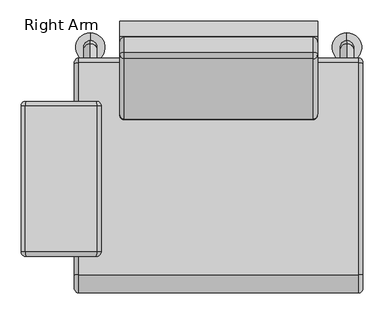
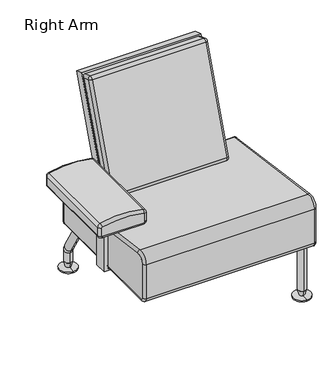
"""IFC4 building model written with IfcOpenShell, lengths in millimetres: furniture geometry, Steelcase Coalesse - Sidewalk - Seating - Collaborative Chair : Right Arm."""

from ifc_helpers import new_model, si_unit, point, frame, origin, place, context, project, spatial, polyline, circle_curve, ellipse_curve, trimmed, outline, extrude, source, transform, mapped, element, save
from ifc_brep_helpers import plane_surface, cylinder_surface, revolved_surface, advanced_brep


def right_arm_d1dfa9dd(model_context):
    return source(origin(), model_context, "Body", "SolidModel", [
        advanced_brep(
        [(122.9089794, 412.7742549, 335.1190448), (122.9089794, 414.1472627, 333.546102), (122.9089794, 414.1472627, 228.6), (122.9089794, 412.5597627, 227.0125), (122.9089794, -114.4902373, 227.0125), (122.9089794, -122.4277373, 234.95), (122.9089794, -122.4277373, 377.1837519), (122.9089794, -91.7938701, 403.9237811), (808.7089794, -91.7938701, 403.9237811), (808.7089794, -122.4277373, 377.1837519), (808.7089794, -122.4277373, 234.95), (808.7089794, -114.4902373, 227.0125), (808.7089794, 412.5597627, 227.0125), (808.7089794, 414.1472627, 228.6), (808.7089794, 414.1472627, 333.546102), (808.7089794, 412.7742549, 335.1190448), (797.5964794, -90.2924248, 414.9343814), (797.5964794, 414.2757002, 346.1296451), (134.0214794, 414.2757002, 346.1296451), (134.0214794, -90.2924248, 414.9343814), (797.5964794, 425.2597627, 333.546102), (134.0214794, 425.2597627, 333.546102), (797.5964794, 425.2597627, 228.6), (134.0214794, 425.2597627, 228.6), (797.5964794, 412.5597627, 215.9), (134.0214794, 412.5597627, 215.9), (797.5964794, -114.4902373, 215.9), (134.0214794, -114.4902373, 215.9), (797.5964794, -133.5402373, 234.95), (134.0214726, -133.5402373, 234.95), (797.5964794, -133.5402373, 377.1837519), (134.0214794, -133.5402373, 377.1837519)],
        [
            (0, 1, circle_curve(frame((122.9089794, 412.5597627, 333.546102), z_axis=(-1.0, 0.0, 0.0), x_axis=(0.0, 0.13511318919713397, 0.9908301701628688)), 1.5875)),
            (1, 2),
            (2, 3, circle_curve(frame((122.9089794, 412.5597627, 228.6), z_axis=(-1.0, 0.0, 0.0), x_axis=(0.0, 1.0, 0.0)), 1.5875)),
            (3, 4),
            (4, 5, circle_curve(frame((122.9089794, -114.4902373, 234.95), z_axis=(-1.0, 0.0, 0.0), x_axis=(0.0, 0.0, -1.0)), 7.9375)),
            (5, 6),
            (6, 7, circle_curve(frame((122.9089794, -95.4402373, 377.1837519), z_axis=(-1.0, 0.0, 0.0), x_axis=(0.0, -1.0, 0.0)), 26.9875)),
            (7, 0),
            (8, 9, circle_curve(frame((808.7089794, -95.4402373, 377.1837519), z_axis=(1.0, 0.0, 0.0), x_axis=(0.0, 0.13511318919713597, 0.9908301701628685)), 26.9875)),
            (9, 10),
            (10, 11, circle_curve(frame((808.7089794, -114.4902373, 234.95), z_axis=(1.0, 0.0, 0.0), x_axis=(0.0, -1.0, 0.0)), 7.9375)),
            (11, 12),
            (12, 13, circle_curve(frame((808.7089794, 412.5597627, 228.6), z_axis=(1.0, 0.0, 0.0), x_axis=(0.0, 0.0, -1.0)), 1.5875)),
            (13, 14),
            (14, 15, circle_curve(frame((808.7089794, 412.5597627, 333.546102), z_axis=(1.0, 0.0, 0.0), x_axis=(0.0, 1.0, 0.0)), 1.5875)),
            (15, 8),
            (16, 17),
            (17, 18),
            (18, 19),
            (19, 16),
            (17, 20, circle_curve(frame((797.5964794, 412.5597627, 333.546102), z_axis=(-1.0, 0.0, 0.0), x_axis=(0.0, -1.0, 0.0)), 12.7)),
            (20, 21),
            (21, 18, circle_curve(frame((134.0214794, 412.5597627, 333.546102), z_axis=(1.0, 0.0, 0.0), x_axis=(0.0, -1.0, 0.0)), 12.7)),
            (20, 22),
            (22, 23),
            (23, 21),
            (22, 24, circle_curve(frame((797.5964794, 412.5597627, 228.6), z_axis=(-1.0, 0.0, 0.0), x_axis=(0.0, -1.0, 0.0)), 12.7)),
            (24, 25),
            (25, 23, circle_curve(frame((134.0214794, 412.5597627, 228.6), z_axis=(1.0, 0.0, 0.0), x_axis=(0.0, -1.0, 0.0)), 12.7)),
            (24, 26),
            (26, 27),
            (27, 25),
            (26, 28, circle_curve(frame((797.5964794, -114.4902373, 234.95), z_axis=(-1.0, 0.0, 0.0), x_axis=(0.0, -1.0, 0.0)), 19.05)),
            (28, 29),
            (29, 27, circle_curve(frame((134.0214794, -114.4902373, 234.95), z_axis=(1.0, 0.0, 0.0), x_axis=(0.0, -1.0, 0.0)), 19.05)),
            (28, 30),
            (30, 31),
            (31, 29),
            (30, 16, circle_curve(frame((797.5964794, -95.4402373, 377.1837519), z_axis=(-1.0, 0.0, 0.0), x_axis=(0.0, -1.0, 0.0)), 38.1)),
            (19, 31, circle_curve(frame((134.0214794, -95.4402373, 377.1837519), z_axis=(1.0, 0.0, 0.0), x_axis=(0.0, -1.0, 0.0)), 38.1)),
            (30, 9, circle_curve(frame((797.5964794, -122.4277373, 377.1837519), z_axis=(0.0, 0.0, 0.9999999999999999), x_axis=(0.0, -0.9999999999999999, 0.0)), 11.1125)),
            (8, 16, circle_curve(frame((797.5964794, -91.7938701, 403.9237811), z_axis=(0.0, -0.9908301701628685, 0.13511318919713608), x_axis=(0.0, 0.13511318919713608, 0.9908301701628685)), 11.1125)),
            (28, 10, circle_curve(frame((797.5964794, -122.4277373, 234.95), z_axis=(0.0, 0.0, 1.0), x_axis=(0.0, -1.0, 0.0)), 11.1125)),
            (26, 11, circle_curve(frame((797.5964794, -114.4902373, 227.0125), z_axis=(0.0, -1.0, 0.0), x_axis=(0.0, 0.0, -1.0)), 11.1125)),
            (24, 12, circle_curve(frame((797.5964794, 412.5597627, 227.0125), z_axis=(0.0, -1.0, 0.0), x_axis=(0.0, 0.0, -1.0)), 11.1125)),
            (22, 13, circle_curve(frame((797.5964794, 414.1472627, 228.6), z_axis=(0.0, 0.0, -1.0), x_axis=(0.0, 1.0, 0.0)), 11.1125)),
            (20, 14, circle_curve(frame((797.5964794, 414.1472627, 333.546102), z_axis=(0.0, 0.0, -1.0), x_axis=(0.0, 1.0, 0.0)), 11.1125)),
            (17, 15, circle_curve(frame((797.5964794, 412.7742549, 335.1190448), z_axis=(0.0, 0.9908301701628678, -0.1351131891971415), x_axis=(0.0, 0.1351131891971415, 0.9908301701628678)), 11.1125)),
            (21, 1, circle_curve(frame((134.0214794, 414.1472627, 333.546102), z_axis=(0.0, 0.0, 1.0), x_axis=(0.0, -1.0, 0.0)), 11.1125)),
            (0, 18, circle_curve(frame((134.0214794, 412.7742549, 335.1190448), z_axis=(0.0, 0.9908301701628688, -0.13511318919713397), x_axis=(0.0, -0.13511318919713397, -0.9908301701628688)), 11.1125)),
            (23, 2, circle_curve(frame((134.0214794, 414.1472627, 228.6), z_axis=(0.0, 0.0, 1.0), x_axis=(0.0, -1.0, 0.0)), 11.1125)),
            (25, 3, circle_curve(frame((134.0214794, 412.5597627, 227.0125), z_axis=(0.0, 1.0, 0.0), x_axis=(0.0, 0.0, 1.0)), 11.1125)),
            (27, 4, circle_curve(frame((134.0214794, -114.4902373, 227.0125), z_axis=(0.0, 1.0, 0.0), x_axis=(0.0, 0.0, 1.0)), 11.1125)),
            (29, 5, circle_curve(frame((134.0214794, -122.4277373, 234.95), z_axis=(0.0, 0.0, -1.0), x_axis=(0.0, 1.0, 0.0)), 11.1125)),
            (31, 6, circle_curve(frame((134.0214794, -122.4277373, 377.1837519), z_axis=(0.0, 0.0, -1.0), x_axis=(0.0, 1.0, 0.0)), 11.1125)),
            (19, 7, circle_curve(frame((134.0214794, -91.7938701, 403.9237811), z_axis=(0.0, -0.9908301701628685, 0.1351131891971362), x_axis=(0.0, -0.1351131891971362, -0.9908301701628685)), 11.1125)),
        ],
        [
            plane_surface(frame((122.9089794, 564.9597627, 325.5818208), z_axis=(-1.0000000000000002, 0.0, 0.0), x_axis=(0.0, 0.9908301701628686, -0.1351131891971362))),
            plane_surface(frame((808.7089794, 564.9597627, 325.5818208), z_axis=(1.0000000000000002, 0.0, 0.0), x_axis=(0.0, -0.9908301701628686, 0.1351131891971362))),
            plane_surface(frame((122.9089794, -90.2924248, 414.9343814), z_axis=(0.0, 0.1351131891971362, 0.9908301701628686), x_axis=(1.0, 0.0, 0.0))),
            cylinder_surface(frame((808.7089794, 412.5597627, 333.546102), z_axis=(-1.0, 0.0, 0.0), x_axis=(0.0, -1.0, 0.0)), 12.7),
            plane_surface(frame((122.9089794, 425.2597627, 333.546102), z_axis=(0.0, 1.0, 0.0), x_axis=(1.0, 0.0, 0.0))),
            cylinder_surface(frame((808.7089794, 412.5597627, 228.6), z_axis=(-1.0, 0.0, 0.0), x_axis=(0.0, -1.0, 0.0)), 12.7),
            plane_surface(frame((122.9089794, 412.5597627, 215.9), z_axis=(0.0, 0.0, -1.0), x_axis=(1.0, 0.0, 0.0))),
            cylinder_surface(frame((808.7089794, -114.4902373, 234.95), z_axis=(-1.0, 0.0, 0.0), x_axis=(0.0, -1.0, 0.0)), 19.05),
            plane_surface(frame((122.9089794, -133.5402373, 234.95), z_axis=(0.0, -1.0, 0.0), x_axis=(1.0, 0.0, 0.0))),
            cylinder_surface(frame((808.7089794, -95.4402373, 377.1837519), z_axis=(-1.0, 0.0, 0.0), x_axis=(0.0, -1.0, 0.0)), 38.1),
            revolved_surface(trimmed(ellipse_curve(frame((797.5964794, -91.7938701, 403.9237811), z_axis=(0.0, 0.9908301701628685, -0.13511318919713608), x_axis=(0.0, 0.13511318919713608, 0.9908301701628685)), 11.1125, 11.1125), [point((797.5964794, -90.2924248, 414.9343814))], [point((808.7089794, -91.7938701, 403.9237811))], True, "CARTESIAN"), (808.7089794, -95.4402373, 377.1837519), (1.0, 0.0, 0.0)),
            cylinder_surface(frame((797.5964794, -122.4277373, 377.1837519), z_axis=(0.0, 0.0, -1.0), x_axis=(0.0, -1.0, 0.0)), 11.1125),
            revolved_surface(trimmed(ellipse_curve(frame((797.5964794, -122.4277373, 234.95), z_axis=(0.0, 0.0, 1.0), x_axis=(0.0, -1.0, 0.0)), 11.1125, 11.1125), [point((797.5964794, -133.5402373, 234.95))], [point((808.7089794, -122.4277373, 234.95))], True, "CARTESIAN"), (808.7089794, -114.4902373, 234.95), (1.0, 0.0, 0.0)),
            cylinder_surface(frame((797.5964794, -114.4902373, 227.0125), z_axis=(0.0, 1.0, 0.0), x_axis=(0.0, 0.0, -1.0)), 11.1125),
            revolved_surface(trimmed(ellipse_curve(frame((797.5964794, 412.5597627, 227.0125), z_axis=(0.0, -1.0, 0.0), x_axis=(0.0, 0.0, -1.0)), 11.1125, 11.1125), [point((797.5964794, 412.5597627, 215.9))], [point((808.7089794, 412.5597627, 227.0125))], True, "CARTESIAN"), (808.7089794, 412.5597627, 228.6), (1.0, 0.0, 0.0)),
            cylinder_surface(frame((797.5964794, 414.1472627, 228.6), z_axis=(0.0, 0.0, 1.0), x_axis=(0.0, 1.0, 0.0)), 11.1125),
            revolved_surface(trimmed(ellipse_curve(frame((797.5964794, 414.1472627, 333.546102), z_axis=(0.0, 0.0, -1.0), x_axis=(0.0, 1.0, 0.0)), 11.1125, 11.1125), [point((797.5964794, 425.2597627, 333.546102))], [point((808.7089794, 414.1472627, 333.546102))], True, "CARTESIAN"), (808.7089794, 412.5597627, 333.546102), (1.0, 0.0, 0.0)),
            cylinder_surface(frame((797.5964794, 412.7742549, 335.1190448), z_axis=(0.0, -0.9908301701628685, 0.13511318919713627), x_axis=(0.0, 0.13511318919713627, 0.9908301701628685)), 11.1125),
            revolved_surface(trimmed(ellipse_curve(frame((134.0214794, 412.7742549, 335.1190448), z_axis=(0.0, -0.9908301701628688, 0.13511318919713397), x_axis=(0.0, -0.13511318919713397, -0.9908301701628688)), 11.1125, 11.1125), [point((134.0214794, 414.2757002, 346.1296451))], [point((122.9089794, 412.7742549, 335.1190448))], True, "CARTESIAN"), (122.9089794, 412.5597627, 333.546102), (-1.0, 0.0, 0.0)),
            cylinder_surface(frame((134.0214794, 414.1472627, 333.546102), z_axis=(0.0, 0.0, -1.0), x_axis=(0.0, -1.0, 0.0)), 11.1125),
            revolved_surface(trimmed(ellipse_curve(frame((134.0214794, 414.1472627, 228.6), z_axis=(0.0, 0.0, 1.0), x_axis=(0.0, -1.0, 0.0)), 11.1125, 11.1125), [point((134.0214794, 425.2597627, 228.6))], [point((122.9089794, 414.1472627, 228.6))], True, "CARTESIAN"), (122.9089794, 412.5597627, 228.6), (-1.0, 0.0, 0.0)),
            cylinder_surface(frame((134.0214794, 412.5597627, 227.0125), z_axis=(0.0, -1.0, 0.0), x_axis=(0.0, 0.0, 1.0)), 11.1125),
            revolved_surface(trimmed(ellipse_curve(frame((134.0214794, -114.4902373, 227.0125), z_axis=(0.0, 1.0, 0.0), x_axis=(0.0, 0.0, 1.0)), 11.1125, 11.1125), [point((134.0214794, -114.4902373, 215.9))], [point((122.9089794, -114.4902373, 227.0125))], True, "CARTESIAN"), (122.9089794, -114.4902373, 234.95), (-1.0, 0.0, 0.0)),
            cylinder_surface(frame((134.0214794, -122.4277373, 234.95), z_axis=(0.0, 0.0, 1.0), x_axis=(0.0, 1.0, 0.0)), 11.1125),
            revolved_surface(trimmed(ellipse_curve(frame((134.0214794, -122.4277373, 377.1837519), z_axis=(0.0, 0.0, -1.0), x_axis=(0.0, 1.0, 0.0)), 11.1125, 11.1125), [point((134.0214794, -133.5402373, 377.1837519))], [point((122.9089794, -122.4277373, 377.1837519))], True, "CARTESIAN"), (122.9089794, -95.4402373, 377.1837519), (-1.0, 0.0, 0.0)),
            cylinder_surface(frame((134.0214794, -91.7938701, 403.9237811), z_axis=(0.0, 0.9908301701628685, -0.1351131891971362), x_axis=(0.0, -0.1351131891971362, -0.9908301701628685)), 11.1125),
        ],
        [
            (0, [[1, 2, 3, 4, 5, 6, 7, 8]]),
            (1, [[9, 10, 11, 12, 13, 14, 15, 16]]),
            (2, [[17, 18, 19, 20]]),
            (3, [[21, 22, 23, -18]]),
            (4, [[24, 25, 26, -22]]),
            (5, [[27, 28, 29, -25]]),
            (6, [[30, 31, 32, -28]]),
            (7, [[33, 34, 35, -31]]),
            (8, [[36, 37, 38, -34]]),
            (9, [[39, -20, 40, -37]]),
            (10, [[41, -9, 42, -39]]),
            (11, [[-41, -36, 43, -10]]),
            (12, [[-43, -33, 44, -11]]),
            (13, [[-44, -30, 45, -12]]),
            (14, [[-45, -27, 46, -13]]),
            (15, [[-46, -24, 47, -14]]),
            (16, [[-47, -21, 48, -15]]),
            (17, [[-42, -16, -48, -17]]),
            (18, [[49, -1, 50, -23]]),
            (19, [[-49, -26, 51, -2]]),
            (20, [[-51, -29, 52, -3]]),
            (21, [[-52, -32, 53, -4]]),
            (22, [[-53, -35, 54, -5]]),
            (23, [[-54, -38, 55, -6]]),
            (24, [[-55, -40, 56, -7]]),
            (25, [[-50, -8, -56, -19]]),
        ],
    ),
        advanced_brep(
        [(8.8567727, -46.3480901, 525.1102695), (7.6454268, -46.3480901, 523.5679776), (7.6454268, -46.3480901, 488.95), (9.2329268, -46.3480901, 487.3625), (174.3329268, -46.3480901, 487.3625), (175.9204268, -46.3480901, 488.95), (175.9204268, -46.3480901, 523.5679776), (174.7090809, -46.3480901, 525.1102695), (174.7090809, 321.9519099, 525.1102695), (175.9204268, 321.9519099, 523.5679776), (175.9204268, 321.9519099, 488.95), (174.3329268, 321.9519099, 487.3625), (9.2329268, 321.9519099, 487.3625), (7.6454268, 321.9519099, 488.95), (7.6454268, 321.9519099, 523.5679776), (8.8567727, 321.9519099, 525.1102695), (174.3329268, 310.8394099, 476.25), (187.0329268, 310.8394099, 488.95), (187.0329268, -35.2355901, 488.95), (174.3329268, -35.2355901, 476.25), (187.0329268, 310.8394099, 523.5679776), (187.0329268, -35.2355901, 523.5679776), (177.3421596, 310.8394099, 535.9063129), (177.3421596, -35.2355901, 535.9063129), (6.2236939, 310.8394099, 535.9063129), (6.2236939, -35.2355901, 535.9063129), (-3.4670732, 310.8394099, 523.5679776), (-3.4670732, -35.2355901, 523.5679776), (-3.4670732, 310.8394099, 488.95), (-3.4670732, -35.2355901, 488.95), (9.2329268, 310.8394099, 476.25), (9.2329268, -35.2355901, 476.25)],
        [
            (0, 1, circle_curve(frame((9.2329268, -46.3480901, 523.5679776), z_axis=(0.0, -1.0, 0.0), x_axis=(-0.23694746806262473, 0.0, 0.9715224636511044)), 1.5875)),
            (1, 2),
            (2, 3, circle_curve(frame((9.2329268, -46.3480901, 488.95), z_axis=(0.0, -1.0, 0.0), x_axis=(-1.0, 0.0, 0.0)), 1.5875)),
            (3, 4),
            (4, 5, circle_curve(frame((174.3329268, -46.3480901, 488.95), z_axis=(0.0, -1.0, 0.0), x_axis=(0.0, 0.0, -1.0)), 1.5875)),
            (5, 6),
            (6, 7, circle_curve(frame((174.3329268, -46.3480901, 523.5679776), z_axis=(0.0, -1.0, 0.0), x_axis=(1.0, 0.0, 0.0)), 1.5875)),
            (7, 0, circle_curve(frame((91.7829268, -46.3480901, 185.0997929), z_axis=(0.0, -1.0, 0.0), x_axis=(0.2369474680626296, 0.0, 0.9715224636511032)), 349.9769581)),
            (8, 9, circle_curve(frame((174.3329268, 321.9519099, 523.5679776), z_axis=(0.0, 1.0, 0.0), x_axis=(0.23694746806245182, 0.0, 0.9715224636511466)), 1.5875)),
            (9, 10),
            (10, 11, circle_curve(frame((174.3329268, 321.9519099, 488.95), z_axis=(0.0, 1.0, 0.0), x_axis=(1.0, 0.0, 0.0)), 1.5875)),
            (11, 12),
            (12, 13, circle_curve(frame((9.2329268, 321.9519099, 488.95), z_axis=(0.0, 1.0, 0.0), x_axis=(0.0, 0.0, -1.0)), 1.5875)),
            (13, 14),
            (14, 15, circle_curve(frame((9.2329268, 321.9519099, 523.5679776), z_axis=(0.0, 1.0, 0.0), x_axis=(-1.0, 0.0, 0.0)), 1.5875)),
            (15, 8, circle_curve(frame((91.7829268, 321.9519099, 185.0997929), z_axis=(0.0, 1.0, 0.0), x_axis=(-0.23694746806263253, 0.0, 0.9715224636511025)), 349.9769581)),
            (16, 17, circle_curve(frame((174.3329268, 310.8394099, 488.95), z_axis=(0.0, -1.0, 0.0), x_axis=(1.0, 0.0, 0.0)), 12.7)),
            (17, 18),
            (18, 19, circle_curve(frame((174.3329268, -35.2355901, 488.95), z_axis=(0.0, 1.0, 0.0), x_axis=(1.0, 0.0, 0.0)), 12.7)),
            (19, 16),
            (17, 20),
            (20, 21),
            (21, 18),
            (20, 22, circle_curve(frame((174.3329268, 310.8394099, 523.5679776), z_axis=(0.0, -1.0, 0.0), x_axis=(1.0, 0.0, 0.0)), 12.7)),
            (22, 23),
            (23, 21, circle_curve(frame((174.3329268, -35.2355901, 523.5679776), z_axis=(0.0, 1.0, 0.0), x_axis=(1.0, 0.0, 0.0)), 12.7)),
            (22, 24, circle_curve(frame((91.7829268, 310.8394099, 185.0997929), z_axis=(0.0, -1.0, 0.0), x_axis=(1.0, 0.0, 0.0)), 361.0894581)),
            (24, 25),
            (25, 23, circle_curve(frame((91.7829268, -35.2355901, 185.0997929), z_axis=(0.0, 1.0, 0.0), x_axis=(1.0, 0.0, 0.0)), 361.0894581)),
            (24, 26, circle_curve(frame((9.2329268, 310.8394099, 523.5679776), z_axis=(0.0, -1.0, 0.0), x_axis=(1.0, 0.0, 0.0)), 12.7)),
            (26, 27),
            (27, 25, circle_curve(frame((9.2329268, -35.2355901, 523.5679776), z_axis=(0.0, 1.0, 0.0), x_axis=(1.0, 0.0, 0.0)), 12.7)),
            (26, 28),
            (28, 29),
            (29, 27),
            (28, 30, circle_curve(frame((9.2329268, 310.8394099, 488.95), z_axis=(0.0, -1.0, 0.0), x_axis=(1.0, 0.0, 0.0)), 12.7)),
            (30, 31),
            (31, 29, circle_curve(frame((9.2329268, -35.2355901, 488.95), z_axis=(0.0, 1.0, 0.0), x_axis=(1.0, 0.0, 0.0)), 12.7)),
            (30, 16),
            (19, 31),
            (20, 9, circle_curve(frame((175.9204268, 310.8394099, 523.5679776), z_axis=(0.0, 0.0, 1.0), x_axis=(1.0, 0.0, 0.0)), 11.1125)),
            (8, 22, circle_curve(frame((174.7090809, 310.8394099, 525.1102695), z_axis=(0.9715224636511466, 0.0, -0.23694746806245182), x_axis=(0.23694746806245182, 0.0, 0.9715224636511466)), 11.1125)),
            (17, 10, circle_curve(frame((175.9204268, 310.8394099, 488.95), z_axis=(0.0, 0.0, 1.0), x_axis=(1.0, 0.0, 0.0)), 11.1125)),
            (16, 11, circle_curve(frame((174.3329268, 310.8394099, 487.3625), z_axis=(1.0, 0.0, 0.0), x_axis=(0.0, 0.0, -1.0)), 11.1125)),
            (30, 12, circle_curve(frame((9.2329268, 310.8394099, 487.3625), z_axis=(1.0, 0.0, 0.0), x_axis=(0.0, 0.0, -1.0)), 11.1125)),
            (28, 13, circle_curve(frame((7.6454268, 310.8394099, 488.95), z_axis=(0.0, 0.0, -1.0), x_axis=(-1.0, 0.0, 0.0)), 11.1125)),
            (26, 14, circle_curve(frame((7.6454268, 310.8394099, 523.5679776), z_axis=(0.0, 0.0, -1.0), x_axis=(-1.0, 0.0, 0.0)), 11.1125)),
            (24, 15, circle_curve(frame((8.8567727, 310.8394099, 525.1102695), z_axis=(-0.9715224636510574, 0.0, -0.2369474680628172), x_axis=(-0.2369474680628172, 0.0, 0.9715224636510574)), 11.1125)),
            (27, 1, circle_curve(frame((7.6454268, -35.2355901, 523.5679776), z_axis=(0.0, 0.0, 1.0), x_axis=(1.0, 0.0, 0.0)), 11.1125)),
            (0, 25, circle_curve(frame((8.8567727, -35.2355901, 525.1102695), z_axis=(-0.9715224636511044, 0.0, -0.2369474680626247), x_axis=(0.2369474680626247, 0.0, -0.9715224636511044)), 11.1125)),
            (29, 2, circle_curve(frame((7.6454268, -35.2355901, 488.95), z_axis=(0.0, 0.0, 1.0), x_axis=(1.0, 0.0, 0.0)), 11.1125)),
            (31, 3, circle_curve(frame((9.2329268, -35.2355901, 487.3625), z_axis=(-1.0, 0.0, 0.0), x_axis=(0.0, 0.0, 1.0)), 11.1125)),
            (19, 4, circle_curve(frame((174.3329268, -35.2355901, 487.3625), z_axis=(-1.0, 0.0, 0.0), x_axis=(0.0, 0.0, 1.0)), 11.1125)),
            (18, 5, circle_curve(frame((175.9204268, -35.2355901, 488.95), z_axis=(0.0, 0.0, -1.0), x_axis=(-1.0, 0.0, 0.0)), 11.1125)),
            (21, 6, circle_curve(frame((175.9204268, -35.2355901, 523.5679776), z_axis=(0.0, 0.0, -1.0), x_axis=(-1.0, 0.0, 0.0)), 11.1125)),
            (23, 7, circle_curve(frame((174.7090809, -35.2355901, 525.1102695), z_axis=(0.9715224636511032, 0.0, -0.23694746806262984), x_axis=(-0.23694746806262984, 0.0, -0.9715224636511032)), 11.1125)),
        ],
        [
            plane_surface(frame((187.0329268, -46.3480901, 488.95), z_axis=(0.0, -1.0, 0.0), x_axis=(0.0, 0.0, 1.0))),
            plane_surface(frame((187.0329268, 321.9519099, 488.95), z_axis=(0.0, 1.0, 0.0), x_axis=(0.0, 0.0, -1.0))),
            cylinder_surface(frame((174.3329268, 321.9519099, 488.95), z_axis=(0.0, -1.0, 0.0), x_axis=(1.0, 0.0, 0.0)), 12.7),
            plane_surface(frame((187.0329268, -46.3480901, 488.95), z_axis=(1.0, 0.0, 0.0), x_axis=(0.0, 1.0, 0.0))),
            cylinder_surface(frame((174.3329268, 321.9519099, 523.5679776), z_axis=(0.0, -1.0, 0.0), x_axis=(1.0, 0.0, 0.0)), 12.7),
            cylinder_surface(frame((91.7829268, 321.9519099, 185.0997929), z_axis=(0.0, -1.0, 0.0), x_axis=(1.0, 0.0, 0.0)), 361.0894581),
            cylinder_surface(frame((9.2329268, 321.9519099, 523.5679776), z_axis=(0.0, -1.0, 0.0), x_axis=(1.0, 0.0, 0.0)), 12.7),
            plane_surface(frame((-3.4670732, -46.3480901, 523.5679776), z_axis=(-1.0, 0.0, 0.0), x_axis=(0.0, 1.0, 0.0))),
            cylinder_surface(frame((9.2329268, 321.9519099, 488.95), z_axis=(0.0, -1.0, 0.0), x_axis=(1.0, 0.0, 0.0)), 12.7),
            plane_surface(frame((9.2329268, -46.3480901, 476.25), z_axis=(0.0, 0.0, -1.0), x_axis=(0.0, 1.0, 0.0))),
            revolved_surface(trimmed(ellipse_curve(frame((174.7090809, 310.8394099, 525.1102695), z_axis=(-0.9715224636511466, 0.0, 0.23694746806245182), x_axis=(0.23694746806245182, 0.0, 0.9715224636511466)), 11.1125, 11.1125), [point((177.3421596, 310.8394099, 535.9063129))], [point((174.7090809, 321.9519099, 525.1102695))], True, "CARTESIAN"), (174.3329268, 321.9519099, 523.5679776), (0.0, 1.0, 0.0)),
            cylinder_surface(frame((175.9204268, 310.8394099, 523.5679776), z_axis=(0.0, 0.0, -1.0), x_axis=(1.0, 0.0, 0.0)), 11.1125),
            revolved_surface(trimmed(ellipse_curve(frame((175.9204268, 310.8394099, 488.95), z_axis=(0.0, 0.0, 1.0), x_axis=(1.0, 0.0, 0.0)), 11.1125, 11.1125), [point((187.0329268, 310.8394099, 488.95))], [point((175.9204268, 321.9519099, 488.95))], True, "CARTESIAN"), (174.3329268, 321.9519099, 488.95), (0.0, 1.0, 0.0)),
            cylinder_surface(frame((174.3329268, 310.8394099, 487.3625), z_axis=(-1.0, 0.0, 0.0), x_axis=(0.0, 0.0, -1.0)), 11.1125),
            revolved_surface(trimmed(ellipse_curve(frame((9.2329268, 310.8394099, 487.3625), z_axis=(1.0, 0.0, 0.0), x_axis=(0.0, 0.0, -1.0)), 11.1125, 11.1125), [point((9.2329268, 310.8394099, 476.25))], [point((9.2329268, 321.9519099, 487.3625))], True, "CARTESIAN"), (9.2329268, 321.9519099, 488.95), (0.0, 1.0, 0.0)),
            cylinder_surface(frame((7.6454268, 310.8394099, 488.95), z_axis=(0.0, 0.0, 1.0), x_axis=(-1.0, 0.0, 0.0)), 11.1125),
            revolved_surface(trimmed(ellipse_curve(frame((7.6454268, 310.8394099, 523.5679776), z_axis=(0.0, 0.0, -1.0), x_axis=(-1.0, 0.0, 0.0)), 11.1125, 11.1125), [point((-3.4670732, 310.8394099, 523.5679776))], [point((7.6454268, 321.9519099, 523.5679776))], True, "CARTESIAN"), (9.2329268, 321.9519099, 523.5679776), (0.0, 1.0, 0.0)),
            revolved_surface(trimmed(ellipse_curve(frame((8.8567727, 310.8394099, 525.1102695), z_axis=(-0.9715224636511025, 0.0, -0.23694746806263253), x_axis=(-0.23694746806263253, 0.0, 0.9715224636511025)), 11.1125, 11.1125), [point((6.2236939, 310.8394099, 535.9063129))], [point((8.8567727, 321.9519099, 525.1102695))], True, "CARTESIAN"), (91.7829268, 321.9519099, 185.0997929), (0.0, 1.0, 0.0)),
            revolved_surface(trimmed(ellipse_curve(frame((8.8567727, -35.2355901, 525.1102695), z_axis=(0.9715224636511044, 0.0, 0.2369474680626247), x_axis=(0.2369474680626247, 0.0, -0.9715224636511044)), 11.1125, 11.1125), [point((6.2236939, -35.2355901, 535.9063129))], [point((8.8567727, -46.3480901, 525.1102695))], True, "CARTESIAN"), (9.2329268, -46.3480901, 523.5679776), (0.0, -1.0, 0.0)),
            cylinder_surface(frame((7.6454268, -35.2355901, 523.5679776), z_axis=(0.0, 0.0, -1.0), x_axis=(1.0, 0.0, 0.0)), 11.1125),
            revolved_surface(trimmed(ellipse_curve(frame((7.6454268, -35.2355901, 488.95), z_axis=(0.0, 0.0, 1.0), x_axis=(1.0, 0.0, 0.0)), 11.1125, 11.1125), [point((-3.4670732, -35.2355901, 488.95))], [point((7.6454268, -46.3480901, 488.95))], True, "CARTESIAN"), (9.2329268, -46.3480901, 488.95), (0.0, -1.0, 0.0)),
            cylinder_surface(frame((9.2329268, -35.2355901, 487.3625), z_axis=(1.0, 0.0, 0.0), x_axis=(0.0, 0.0, 1.0)), 11.1125),
            revolved_surface(trimmed(ellipse_curve(frame((174.3329268, -35.2355901, 487.3625), z_axis=(-1.0, 0.0, 0.0), x_axis=(0.0, 0.0, 1.0)), 11.1125, 11.1125), [point((174.3329268, -35.2355901, 476.25))], [point((174.3329268, -46.3480901, 487.3625))], True, "CARTESIAN"), (174.3329268, -46.3480901, 488.95), (0.0, -1.0, 0.0)),
            cylinder_surface(frame((175.9204268, -35.2355901, 488.95), z_axis=(0.0, 0.0, 1.0), x_axis=(-1.0, 0.0, 0.0)), 11.1125),
            revolved_surface(trimmed(ellipse_curve(frame((175.9204268, -35.2355901, 523.5679776), z_axis=(0.0, 0.0, -1.0), x_axis=(-1.0, 0.0, 0.0)), 11.1125, 11.1125), [point((187.0329268, -35.2355901, 523.5679776))], [point((175.9204268, -46.3480901, 523.5679776))], True, "CARTESIAN"), (174.3329268, -46.3480901, 523.5679776), (0.0, -1.0, 0.0)),
            revolved_surface(trimmed(ellipse_curve(frame((174.7090809, -35.2355901, 525.1102695), z_axis=(0.9715224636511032, 0.0, -0.23694746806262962), x_axis=(-0.23694746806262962, 0.0, -0.9715224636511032)), 11.1125, 11.1125), [point((177.3421596, -35.2355901, 535.9063129))], [point((174.7090809, -46.3480901, 525.1102695))], True, "CARTESIAN"), (91.7829268, -46.3480901, 185.0997929), (0.0, -1.0, 0.0)),
        ],
        [
            (0, [[1, 2, 3, 4, 5, 6, 7, 8]]),
            (1, [[9, 10, 11, 12, 13, 14, 15, 16]]),
            (2, [[17, 18, 19, 20]]),
            (3, [[21, 22, 23, -18]]),
            (4, [[24, 25, 26, -22]]),
            (5, [[27, 28, 29, -25]]),
            (6, [[30, 31, 32, -28]]),
            (7, [[33, 34, 35, -31]]),
            (8, [[36, 37, 38, -34]]),
            (9, [[39, -20, 40, -37]]),
            (10, [[41, -9, 42, -24]]),
            (11, [[-41, -21, 43, -10]]),
            (12, [[-43, -17, 44, -11]]),
            (13, [[-44, -39, 45, -12]]),
            (14, [[-45, -36, 46, -13]]),
            (15, [[-46, -33, 47, -14]]),
            (16, [[-47, -30, 48, -15]]),
            (17, [[-42, -16, -48, -27]]),
            (18, [[49, -1, 50, -32]]),
            (19, [[-49, -35, 51, -2]]),
            (20, [[-51, -38, 52, -3]]),
            (21, [[-52, -40, 53, -4]]),
            (22, [[-53, -19, 54, -5]]),
            (23, [[-54, -23, 55, -6]]),
            (24, [[-55, -26, 56, -7]]),
            (25, [[-50, -8, -56, -29]]),
        ],
    ),
        extrude(outline(polyline([(207.2866207, 109.0164921), (207.2866207, 197.9164921), (213.6366207, 197.9164921), (213.6366207, 121.7164921), (476.25, 121.7164921), (476.25, 109.0164921), (207.2866207, 109.0164921)])), frame((0.0, 112.4019099, 0.0), z_axis=(0.0, 1.0, 0.0), x_axis=(0.0, 0.0, 1.0)), (0.0, 0.0, 1.0), 50.8),
        advanced_brep(
        [(230.8589764, 435.601958, 772.4897206), (230.8589764, 460.9619318, 763.2594642), (230.8589764, 317.9995565, 370.4735514), (230.8589764, 290.9791404, 374.1581532), (230.8589764, 289.7018705, 376.274053), (230.8589764, 433.56724, 771.5409151), (700.7589825, 289.7018705, 376.274053), (700.7589825, 290.9791404, 374.1581532), (700.7589825, 317.9995565, 370.4735514), (700.7589825, 460.9619318, 763.2594642), (700.7589825, 435.601958, 772.4897206), (700.7589825, 433.56724, 771.5409151), (241.9714764, 475.2049673, 769.9011067), (241.9714764, 439.4026498, 782.9320574), (689.6464825, 439.4026498, 782.9320574), (689.6464825, 475.2049673, 769.9011067), (241.9714764, 325.3770207, 358.2521909), (689.6464825, 325.3770207, 358.2521909), (241.9714764, 289.477695, 363.1475529), (689.6464825, 289.477695, 363.1475529), (241.9714764, 279.2595362, 380.0747518), (689.6464825, 279.2595362, 380.0747518), (241.9714764, 423.1249057, 775.3416139), (689.6464825, 423.1249057, 775.3416139)],
        [
            (0, 1),
            (1, 2),
            (2, 3),
            (3, 4, circle_curve(frame((230.8589764, 291.1936325, 375.7310961), z_axis=(-1.0, 0.0, 0.0), x_axis=(0.0, -0.13511318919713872, -0.9908301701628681)), 1.5875)),
            (4, 5),
            (5, 0, circle_curve(frame((230.8589764, 435.059002, 770.9979582), z_axis=(-1.0, 0.0, 0.0), x_axis=(0.0, -0.9396926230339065, 0.3420201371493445)), 1.5875)),
            (6, 7, circle_curve(frame((700.7589825, 291.1936325, 375.7310961), z_axis=(1.0, 0.0, 0.0), x_axis=(0.0, -0.9396926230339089, 0.3420201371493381)), 1.5875)),
            (7, 8),
            (8, 9),
            (9, 10),
            (10, 11, circle_curve(frame((700.7589825, 435.059002, 770.9979582), z_axis=(1.0, 0.0, 0.0), x_axis=(0.0, 0.34201951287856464, 0.939692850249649)), 1.5875)),
            (11, 6),
            (12, 13),
            (13, 14),
            (14, 15),
            (15, 12),
            (16, 12),
            (15, 17),
            (17, 16),
            (18, 16),
            (17, 19),
            (19, 18),
            (20, 18, circle_curve(frame((241.9714764, 291.1936325, 375.7310961), z_axis=(1.0, 0.0, 0.0), x_axis=(0.0, -1.0, 0.0)), 12.7)),
            (19, 21, circle_curve(frame((689.6464825, 291.1936325, 375.7310961), z_axis=(-1.0, 0.0, 0.0), x_axis=(0.0, -1.0, 0.0)), 12.7)),
            (21, 20),
            (22, 20),
            (21, 23),
            (23, 22),
            (13, 22, circle_curve(frame((241.9714764, 435.059002, 770.9979582), z_axis=(1.0, 0.0, 0.0), x_axis=(0.0, -1.0, 0.0)), 12.7)),
            (23, 14, circle_curve(frame((689.6464825, 435.059002, 770.9979582), z_axis=(-1.0, 0.0, 0.0), x_axis=(0.0, -1.0, 0.0)), 12.7)),
            (12, 1, ellipse_curve(frame((241.9714764, 460.9619318, 763.2594642), z_axis=(0.0, -0.4226185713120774, 0.9063076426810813), x_axis=(0.0, 0.9063076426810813, 0.4226185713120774)), 15.7154534, 11.1125)),
            (0, 13, circle_curve(frame((241.9714764, 435.601958, 772.4897206), z_axis=(0.0, 0.9396928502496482, -0.34201951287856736), x_axis=(0.0, -0.3420195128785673, -0.939692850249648)), 11.1125)),
            (16, 2, ellipse_curve(frame((241.9714764, 317.9995565, 370.4735514), z_axis=(0.0, 0.8561100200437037, 0.5167936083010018), x_axis=(0.0, 0.5167936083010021, -0.8561100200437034)), 14.2754555, 11.1125)),
            (18, 3, circle_curve(frame((241.9714764, 290.9791404, 374.1581532), z_axis=(0.0, 0.9908301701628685, -0.13511318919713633), x_axis=(0.0, 0.13511318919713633, 0.9908301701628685)), 11.1125)),
            (20, 4, circle_curve(frame((241.9714764, 289.7018705, 376.274053), z_axis=(0.0, -0.3420201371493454, -0.9396926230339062), x_axis=(0.0, 0.9396926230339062, -0.3420201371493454)), 11.1125)),
            (22, 5, circle_curve(frame((241.9714764, 433.56724, 771.5409151), z_axis=(0.0, -0.34202013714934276, -0.9396926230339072), x_axis=(0.0, 0.9396926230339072, -0.34202013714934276)), 11.1125)),
            (19, 7, circle_curve(frame((689.6464825, 290.9791404, 374.1581532), z_axis=(0.0, -0.9908301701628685, 0.13511318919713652), x_axis=(0.0, -0.13511318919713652, -0.9908301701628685)), 11.1125)),
            (6, 21, circle_curve(frame((689.6464825, 289.7018705, 376.274053), z_axis=(0.0, -0.34202013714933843, -0.9396926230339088), x_axis=(0.0, -0.9396926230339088, 0.34202013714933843)), 11.1125)),
            (17, 8, ellipse_curve(frame((689.6464825, 317.9995565, 370.4735514), z_axis=(0.0, -0.8561100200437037, -0.5167936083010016), x_axis=(0.0, 0.5167936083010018, -0.8561100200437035)), 14.2754555, 11.1125)),
            (15, 9, ellipse_curve(frame((689.6464825, 460.9619318, 763.2594642), z_axis=(0.0, 0.4226185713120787, -0.9063076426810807), x_axis=(0.0, 0.9063076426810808, 0.42261857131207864)), 15.7154534, 11.1125)),
            (14, 10, circle_curve(frame((689.6464825, 435.601958, 772.4897206), z_axis=(0.0, 0.9396928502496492, -0.3420195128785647), x_axis=(0.0, 0.34201951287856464, 0.939692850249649)), 11.1125)),
            (23, 11, circle_curve(frame((689.6464825, 433.56724, 771.5409151), z_axis=(0.0, 0.34202013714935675, 0.939692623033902), x_axis=(0.0, -0.939692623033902, 0.34202013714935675)), 11.1125)),
        ],
        [
            plane_surface(frame((230.8589764, 476.9677554, 769.2595057), z_axis=(-1.0, 0.0, 0.0), x_axis=(0.0, 0.9396928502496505, -0.3420195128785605))),
            plane_surface(frame((700.7589825, 476.9677554, 769.2595057), z_axis=(1.0, 0.0, 0.0), x_axis=(0.0, -0.9396928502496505, 0.3420195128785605))),
            plane_surface(frame((230.8589764, 439.4026498, 782.9320574), z_axis=(0.0, 0.3420195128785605, 0.9396928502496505), x_axis=(1.0, 0.0, 0.0))),
            plane_surface(frame((230.8589764, 475.2049673, 769.9011067), z_axis=(0.0, 0.939692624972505, -0.34202013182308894), x_axis=(1.0, 0.0, 0.0))),
            plane_surface(frame((230.8589764, 325.3770207, 358.2521909), z_axis=(0.0, -0.13511318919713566, -0.9908301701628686), x_axis=(1.0, 0.0, 0.0))),
            cylinder_surface(frame((700.7589825, 291.1936325, 375.7310961), z_axis=(-1.0, 0.0, 0.0), x_axis=(0.0, -1.0, 0.0)), 12.7),
            plane_surface(frame((230.8589764, 279.2595362, 380.0747518), z_axis=(0.0, -0.9396926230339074, 0.3420201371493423), x_axis=(1.0, 0.0, 0.0))),
            cylinder_surface(frame((700.7589825, 435.059002, 770.9979582), z_axis=(-1.0, 0.0, 0.0), x_axis=(0.0, -1.0, 0.0)), 12.7),
            cylinder_surface(frame((241.9714764, 435.601958, 772.4897206), z_axis=(0.0, 0.939692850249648, -0.3420195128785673), x_axis=(0.0, -0.3420195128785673, -0.939692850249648)), 11.1125),
            cylinder_surface(frame((241.9714764, 464.762633, 773.7018054), z_axis=(0.0, -0.3420201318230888, -0.939692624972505), x_axis=(0.0, -0.939692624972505, 0.3420201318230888)), 11.1125),
            cylinder_surface(frame((241.9714764, 326.878466, 369.2627912), z_axis=(0.0, -0.9908301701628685, 0.13511318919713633), x_axis=(0.0, 0.13511318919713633, 0.9908301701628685)), 11.1125),
            revolved_surface(trimmed(ellipse_curve(frame((241.9714764, 290.9791404, 374.1581532), z_axis=(0.0, 0.9908301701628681, -0.1351131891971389), x_axis=(0.0, 0.1351131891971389, 0.9908301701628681)), 11.1125, 11.1125), [point((241.9714764, 289.477695, 363.1475529))], [point((230.8589764, 290.9791404, 374.1581532))], True, "CARTESIAN"), (230.8589764, 291.1936325, 375.7310961), (-1.0, 0.0, 0.0)),
            cylinder_surface(frame((241.9714764, 289.7018705, 376.274053), z_axis=(0.0, 0.34202013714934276, 0.9396926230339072), x_axis=(0.0, 0.9396926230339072, -0.34202013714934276)), 11.1125),
            revolved_surface(trimmed(ellipse_curve(frame((241.9714764, 433.56724, 771.5409151), z_axis=(0.0, -0.342020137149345, -0.9396926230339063), x_axis=(0.0, 0.9396926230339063, -0.342020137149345)), 11.1125, 11.1125), [point((241.9714764, 423.1249057, 775.3416139))], [point((230.8589764, 433.56724, 771.5409151))], True, "CARTESIAN"), (230.8589764, 435.059002, 770.9979582), (-1.0, 0.0, 0.0)),
            revolved_surface(trimmed(ellipse_curve(frame((689.6464825, 289.7018705, 376.274053), z_axis=(0.0, 0.34202013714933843, 0.9396926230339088), x_axis=(0.0, -0.9396926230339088, 0.34202013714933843)), 11.1125, 11.1125), [point((689.6464825, 279.2595362, 380.0747518))], [point((700.7589825, 289.7018705, 376.274053))], True, "CARTESIAN"), (700.7589825, 291.1936325, 375.7310961), (1.0, 0.0, 0.0)),
            cylinder_surface(frame((689.6464825, 290.9791404, 374.1581532), z_axis=(0.0, 0.9908301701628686, -0.1351131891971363), x_axis=(0.0, -0.1351131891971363, -0.9908301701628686)), 11.1125),
            cylinder_surface(frame((689.6464825, 314.9346864, 362.0528896), z_axis=(0.0, 0.34202013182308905, 0.9396926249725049), x_axis=(0.0, 0.9396926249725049, -0.34202013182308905)), 11.1125),
            cylinder_surface(frame((689.6464825, 471.4042755, 759.4587699), z_axis=(0.0, -0.939692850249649, 0.34201951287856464), x_axis=(0.0, 0.34201951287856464, 0.939692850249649)), 11.1125),
            revolved_surface(trimmed(ellipse_curve(frame((689.6464825, 435.601958, 772.4897206), z_axis=(0.0, 0.939692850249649, -0.3420195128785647), x_axis=(0.0, 0.3420195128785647, 0.939692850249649)), 11.1125, 11.1125), [point((689.6464825, 439.4026498, 782.9320574))], [point((700.7589825, 435.601958, 772.4897206))], True, "CARTESIAN"), (700.7589825, 435.059002, 770.9979582), (1.0, 0.0, 0.0)),
            cylinder_surface(frame((689.6464825, 433.56724, 771.5409151), z_axis=(0.0, -0.34202013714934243, -0.9396926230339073), x_axis=(0.0, -0.9396926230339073, 0.34202013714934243)), 11.1125),
        ],
        [
            (0, [[1, 2, 3, 4, 5, 6]]),
            (1, [[7, 8, 9, 10, 11, 12]]),
            (2, [[13, 14, 15, 16]]),
            (3, [[17, -16, 18, 19]]),
            (4, [[20, -19, 21, 22]]),
            (5, [[23, -22, 24, 25]]),
            (6, [[26, -25, 27, 28]]),
            (7, [[29, -28, 30, -14]]),
            (8, [[31, -1, 32, -13]]),
            (9, [[-31, -17, 33, -2]]),
            (10, [[-33, -20, 34, -3]]),
            (11, [[-34, -23, 35, -4]]),
            (12, [[-35, -26, 36, -5]]),
            (13, [[-32, -6, -36, -29]]),
            (14, [[37, -7, 38, -24]]),
            (15, [[-37, -21, 39, -8]]),
            (16, [[-39, -18, 40, -9]]),
            (17, [[-40, -15, 41, -10]]),
            (18, [[-41, -30, 42, -11]]),
            (19, [[-38, -12, -42, -27]]),
        ],
    ),
        extrude(outline(polyline([(513.2448372, 763.0177625), (364.0049937, 352.9847407), (325.3770207, 358.2521909), (477.4425175, 776.0487255), (513.2448372, 763.0177625)])), frame((230.8589764, 0.0, 0.0), z_axis=(1.0, 0.0, 0.0), x_axis=(0.0, 1.0, 0.0)), (0.0, 0.0, 1.0), 469.9000061),
        advanced_brep(
        [(770.5801534, 450.6597627, 0.0), (770.5801534, 484.5264293, 0.0), (770.5801534, 416.793096, 0.0), (770.5801534, 434.7847627, 31.75), (770.5801534, 466.5347627, 31.75), (770.5801534, 450.6597627, 31.75), (770.5801534, 440.7764092, 8.5001207), (770.5801534, 460.5431161, 8.5001207), (770.5801534, 415.7347627, 6.35), (770.5801534, 485.5847627, 6.35)],
        [
            (0, 1),
            (1, 2, circle_curve(frame((770.5801534, 450.6597627, 0.0), z_axis=(0.0, 0.0, -1.0), x_axis=(0.0, 1.0, 0.0)), 33.8666667)),
            (2, 0),
            (2, 1, circle_curve(frame((770.5801534, 450.6597627, 0.0), z_axis=(0.0, 0.0, -1.0), x_axis=(0.0, 1.0, 0.0)), 33.8666667)),
            (3, 4, circle_curve(frame((770.5801534, 450.6597627, 31.75), z_axis=(0.0, 0.0, 1.0), x_axis=(0.0, 1.0, 0.0)), 15.875)),
            (4, 5),
            (5, 3),
            (4, 3, circle_curve(frame((770.5801534, 450.6597627, 31.75), z_axis=(0.0, 0.0, 1.0), x_axis=(0.0, 1.0, 0.0)), 15.875)),
            (6, 7, circle_curve(frame((770.5801534, 450.6597627, 8.5001207), z_axis=(0.0, 0.0, 1.0), x_axis=(0.0, 1.0, 0.0)), 9.8833534)),
            (7, 4),
            (3, 6),
            (7, 6, circle_curve(frame((770.5801534, 450.6597627, 8.5001207), z_axis=(0.0, 0.0, 1.0), x_axis=(0.0, 1.0, 0.0)), 9.8833534)),
            (8, 9, circle_curve(frame((770.5801534, 450.6597627, 6.35), z_axis=(0.0, 0.0, 1.0), x_axis=(0.0, 1.0, 0.0)), 34.925)),
            (9, 7),
            (6, 8),
            (9, 8, circle_curve(frame((770.5801534, 450.6597627, 6.35), z_axis=(0.0, 0.0, 1.0), x_axis=(0.0, 1.0, 0.0)), 34.925)),
            (1, 9),
            (8, 2),
        ],
        [
            plane_surface(frame((770.5801534, 450.6597627, 0.0), z_axis=(0.0, 0.0, -1.0), x_axis=(0.0, 1.0, 0.0))),
            plane_surface(frame((770.5801534, 450.6597627, 31.75), z_axis=(0.0, 0.0, 1.0), x_axis=(0.0, 1.0, 0.0))),
            revolved_surface(polyline([(770.5801534, 466.5347627, 31.75), (770.5801534, 460.5431161, 8.5001207)]), (770.5801534, 450.6597627, -31.75), (0.0, 0.0, -1.0)),
            revolved_surface(polyline([(770.5801534, 460.5431161, 8.5001207), (770.5801534, 485.5847627, 6.35)]), (770.5801534, 450.6597627, -31.75), (0.0, 0.0, -1.0)),
            revolved_surface(polyline([(770.5801534, 485.5847627, 6.35), (770.5801534, 484.5264293, 0.0)]), (770.5801534, 450.6597627, -31.75), (0.0, 0.0, -1.0)),
        ],
        [
            (0, [[1, 2, 3]]),
            (0, [[-3, 4, -1]]),
            (1, [[5, 6, 7]]),
            (1, [[8, -7, -6]]),
            (2, [[9, 10, -5, 11]]),
            (2, [[12, -11, -8, -10]]),
            (3, [[13, 14, -9, 15]]),
            (3, [[16, -15, -12, -14]]),
            (4, [[-2, 17, -13, 18]]),
            (4, [[-4, -18, -16, -17]]),
        ],
    ),
        advanced_brep(
        [(770.5801534, 434.7847627, 31.75), (770.5801534, 466.5347627, 31.75), (770.5801534, 434.7847627, 73.4363994), (770.5801534, 466.5347627, 73.4363994), (770.5801534, 459.6905974, 98.4722611), (770.5801534, 432.3561879, 82.3200923), (770.5801534, 353.4225241, 215.8999916), (770.5801534, 380.7569336, 232.0521604)],
        [
            (0, 1, circle_curve(frame((770.5801534, 450.6597627, 31.75), z_axis=(0.0, 0.0, -1.0), x_axis=(0.0, 1.0, 0.0)), 15.875)),
            (1, 0, circle_curve(frame((770.5801534, 450.6597627, 31.75), z_axis=(0.0, 0.0, -1.0), x_axis=(0.0, 1.0, 0.0)), 15.875)),
            (0, 2),
            (2, 3, circle_curve(frame((770.5801534, 450.6597627, 73.4363994), z_axis=(0.0, 0.0, -1.0), x_axis=(0.0, 1.0, 0.0)), 15.875)),
            (3, 1),
            (3, 2, circle_curve(frame((770.5801534, 450.6597627, 73.4363994), z_axis=(0.0, 0.0, -1.0), x_axis=(0.0, 1.0, 0.0)), 15.875)),
            (4, 3, circle_curve(frame((770.5801534, 417.3222627, 73.4363994), z_axis=(-1.0, 0.0, 0.0), x_axis=(0.0, 1.0, 0.0)), 49.2125)),
            (2, 5, circle_curve(frame((770.5801534, 417.3222627, 73.4363994), z_axis=(1.0, 0.0, 0.0), x_axis=(0.0, 1.0, 0.0)), 17.4625)),
            (5, 4, circle_curve(frame((770.5801534, 446.0233926, 90.3961767), z_axis=(0.0, 0.5087297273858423, -0.8609262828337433), x_axis=(0.0, 0.8609262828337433, 0.5087297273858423)), 15.875)),
            (4, 5, circle_curve(frame((770.5801534, 446.0233926, 90.3961767), z_axis=(0.0, 0.508729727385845, -0.8609262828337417), x_axis=(0.0, 0.8609262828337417, 0.508729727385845)), 15.875)),
            (6, 7, circle_curve(frame((770.5801534, 367.0897288, 223.976076), z_axis=(0.0, -0.5087297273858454, 0.8609262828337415), x_axis=(0.0, 0.8609262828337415, 0.5087297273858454)), 15.875)),
            (7, 6, circle_curve(frame((770.5801534, 367.0897288, 223.976076), z_axis=(0.0, -0.5087297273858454, 0.8609262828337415), x_axis=(0.0, 0.8609262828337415, 0.5087297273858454)), 15.875)),
            (5, 6),
            (7, 4),
        ],
        [
            plane_surface(frame((770.5801534, 450.6597627, 31.75), z_axis=(0.0, 0.0, -1.0), x_axis=(-1.0, 0.0, 0.0))),
            cylinder_surface(frame((770.5801534, 450.6597627, 31.75), z_axis=(0.0, 0.0, -1.0), x_axis=(0.0, 1.0, 0.0)), 15.875),
            revolved_surface(trimmed(ellipse_curve(frame((770.5801534, 450.6597627, 73.4363994), z_axis=(0.0, 0.0, -1.0), x_axis=(0.0, 1.0, 0.0)), 15.875, 15.875), [point((770.5801534, 434.7847627, 73.4363994))], [point((770.5801534, 466.5347627, 73.4363994))], True, "CARTESIAN"), (770.5801534, 417.3222627, 73.4363994), (1.0, 0.0, 0.0)),
            revolved_surface(trimmed(ellipse_curve(frame((770.5801534, 450.6597627, 73.4363994), z_axis=(0.0, 0.0, -1.0), x_axis=(0.0, 1.0, 0.0)), 15.875, 15.875), [point((770.5801534, 466.5347627, 73.4363994))], [point((770.5801534, 434.7847627, 73.4363994))], True, "CARTESIAN"), (770.5801534, 417.3222627, 73.4363994), (1.0, 0.0, 0.0)),
            plane_surface(frame((770.5801534, 367.0897288, 223.976076), z_axis=(0.0, -0.5087297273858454, 0.8609262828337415), x_axis=(-1.0, 0.0, 0.0))),
            cylinder_surface(frame((770.5801534, 446.0233926, 90.3961767), z_axis=(0.0, 0.5087297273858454, -0.8609262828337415), x_axis=(0.0, 0.8609262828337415, 0.5087297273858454)), 15.875),
        ],
        [
            (0, [[1, 2]]),
            (1, [[-1, 3, 4, 5]]),
            (1, [[-2, -5, 6, -3]]),
            (2, [[7, -4, 8, 9]]),
            (3, [[-8, -6, -7, 10]]),
            (4, [[11, 12]]),
            (5, [[-9, 13, -12, 14]]),
            (5, [[-10, -14, -11, -13]]),
        ],
    ),
        advanced_brep(
        [(161.0378055, 415.7347627, 6.35), (161.0378055, 485.5847627, 6.35), (161.0378055, 484.5264293, 0.0), (161.0378055, 416.793096, 0.0), (161.0378055, 440.7764092, 8.5001207), (161.0378055, 460.5431161, 8.5001207), (161.0378055, 434.7847627, 31.75), (161.0378055, 466.5347627, 31.75), (161.0378055, 450.6597627, 31.75), (161.0378055, 450.6597627, 0.0)],
        [
            (0, 1, circle_curve(frame((161.0378055, 450.6597627, 6.35), z_axis=(0.0, 0.0, -1.0), x_axis=(0.0, 1.0, 0.0)), 34.925)),
            (1, 2),
            (2, 3, circle_curve(frame((161.0378055, 450.6597627, 0.0), z_axis=(0.0, 0.0, 1.0), x_axis=(0.0, 1.0, 0.0)), 33.8666667)),
            (3, 0),
            (1, 0, circle_curve(frame((161.0378055, 450.6597627, 6.35), z_axis=(0.0, 0.0, -1.0), x_axis=(0.0, 1.0, 0.0)), 34.925)),
            (3, 2, circle_curve(frame((161.0378055, 450.6597627, 0.0), z_axis=(0.0, 0.0, 1.0), x_axis=(0.0, 1.0, 0.0)), 33.8666667)),
            (4, 5, circle_curve(frame((161.0378055, 450.6597627, 8.5001207), z_axis=(0.0, 0.0, -1.0), x_axis=(0.0, 1.0, 0.0)), 9.8833534)),
            (5, 1),
            (0, 4),
            (5, 4, circle_curve(frame((161.0378055, 450.6597627, 8.5001207), z_axis=(0.0, 0.0, -1.0), x_axis=(0.0, 1.0, 0.0)), 9.8833534)),
            (6, 7, circle_curve(frame((161.0378055, 450.6597627, 31.75), z_axis=(0.0, 0.0, -1.0), x_axis=(0.0, 1.0, 0.0)), 15.875)),
            (7, 5),
            (4, 6),
            (7, 6, circle_curve(frame((161.0378055, 450.6597627, 31.75), z_axis=(0.0, 0.0, -1.0), x_axis=(0.0, 1.0, 0.0)), 15.875)),
            (8, 7),
            (6, 8),
            (2, 9),
            (9, 3),
        ],
        [
            revolved_surface(polyline([(161.0378055, 484.5264293, 0.0), (161.0378055, 485.5847627, 6.35)]), (161.0378055, 450.6597627, -31.75), (0.0, 0.0, 1.0)),
            revolved_surface(polyline([(161.0378055, 485.5847627, 6.35), (161.0378055, 460.5431161, 8.5001207)]), (161.0378055, 450.6597627, -31.75), (0.0, 0.0, 1.0)),
            revolved_surface(polyline([(161.0378055, 460.5431161, 8.5001207), (161.0378055, 466.5347627, 31.75)]), (161.0378055, 450.6597627, -31.75), (0.0, 0.0, 1.0)),
            plane_surface(frame((161.0378055, 450.6597627, 31.75), z_axis=(0.0, 0.0, 1.0), x_axis=(0.0, 1.0, 0.0))),
            plane_surface(frame((161.0378055, 450.6597627, 0.0), z_axis=(0.0, 0.0, -1.0), x_axis=(0.0, 1.0, 0.0))),
        ],
        [
            (0, [[1, 2, 3, 4]]),
            (0, [[5, -4, 6, -2]]),
            (1, [[7, 8, -1, 9]]),
            (1, [[10, -9, -5, -8]]),
            (2, [[11, 12, -7, 13]]),
            (2, [[14, -13, -10, -12]]),
            (3, [[15, -11, 16]]),
            (3, [[-16, -14, -15]]),
            (4, [[-3, 17, 18]]),
            (4, [[-6, -18, -17]]),
        ],
    ),
        advanced_brep(
        [(161.0378055, 466.5347627, 31.75), (161.0378055, 434.7847627, 31.75), (161.0378055, 466.5347627, 73.4363994), (161.0378055, 434.7847627, 73.4363994), (161.0378055, 432.3561879, 82.3200923), (161.0378055, 459.6905974, 98.4722611), (161.0378055, 380.7569336, 232.0521604), (161.0378055, 353.4225241, 215.8999916)],
        [
            (0, 1, circle_curve(frame((161.0378055, 450.6597627, 31.75), z_axis=(0.0, 0.0, -1.0), x_axis=(0.0, -1.0, 0.0)), 15.875)),
            (1, 0, circle_curve(frame((161.0378055, 450.6597627, 31.75), z_axis=(0.0, 0.0, -1.0), x_axis=(0.0, -1.0, 0.0)), 15.875)),
            (0, 2),
            (2, 3, circle_curve(frame((161.0378055, 450.6597627, 73.4363994), z_axis=(0.0, 0.0, -1.0), x_axis=(0.0, -1.0, 0.0)), 15.875)),
            (3, 1),
            (3, 2, circle_curve(frame((161.0378055, 450.6597627, 73.4363994), z_axis=(0.0, 0.0, -1.0), x_axis=(0.0, -1.0, 0.0)), 15.875)),
            (4, 3, circle_curve(frame((161.0378055, 417.3222627, 73.4363994), z_axis=(-1.0, 0.0, 0.0), x_axis=(0.0, 1.0, 0.0)), 17.4625)),
            (2, 5, circle_curve(frame((161.0378055, 417.3222627, 73.4363994), z_axis=(1.0, 0.0, 0.0), x_axis=(0.0, 1.0, 0.0)), 49.2125)),
            (5, 4, circle_curve(frame((161.0378055, 446.0233926, 90.3961767), z_axis=(0.0, 0.5087297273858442, -0.8609262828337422), x_axis=(0.0, -0.8609262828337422, -0.5087297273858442)), 15.875)),
            (4, 5, circle_curve(frame((161.0378055, 446.0233926, 90.3961767), z_axis=(0.0, 0.5087297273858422, -0.8609262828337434), x_axis=(0.0, -0.8609262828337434, -0.5087297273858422)), 15.875)),
            (6, 7, circle_curve(frame((161.0378055, 367.0897288, 223.976076), z_axis=(0.0, -0.5087297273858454, 0.8609262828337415), x_axis=(0.0, -0.8609262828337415, -0.5087297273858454)), 15.875)),
            (7, 6, circle_curve(frame((161.0378055, 367.0897288, 223.976076), z_axis=(0.0, -0.5087297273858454, 0.8609262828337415), x_axis=(0.0, -0.8609262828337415, -0.5087297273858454)), 15.875)),
            (5, 6),
            (7, 4),
        ],
        [
            plane_surface(frame((161.0378055, 450.6597627, 31.75), z_axis=(0.0, 0.0, -1.0), x_axis=(1.0, 0.0, 0.0))),
            cylinder_surface(frame((161.0378055, 450.6597627, 31.75), z_axis=(0.0, 0.0, -1.0), x_axis=(0.0, -1.0, 0.0)), 15.875),
            revolved_surface(trimmed(ellipse_curve(frame((161.0378055, 450.6597627, 73.4363994), z_axis=(0.0, 0.0, -1.0), x_axis=(0.0, -1.0, 0.0)), 15.875, 15.875), [point((161.0378055, 466.5347627, 73.4363994))], [point((161.0378055, 434.7847627, 73.4363994))], True, "CARTESIAN"), (161.0378055, 417.3222627, 73.4363994), (1.0, 0.0, 0.0)),
            revolved_surface(trimmed(ellipse_curve(frame((161.0378055, 450.6597627, 73.4363994), z_axis=(0.0, 0.0, -1.0), x_axis=(0.0, -1.0, 0.0)), 15.875, 15.875), [point((161.0378055, 434.7847627, 73.4363994))], [point((161.0378055, 466.5347627, 73.4363994))], True, "CARTESIAN"), (161.0378055, 417.3222627, 73.4363994), (1.0, 0.0, 0.0)),
            plane_surface(frame((161.0378055, 367.0897288, 223.976076), z_axis=(0.0, -0.5087297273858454, 0.8609262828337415), x_axis=(1.0, 0.0, 0.0))),
            cylinder_surface(frame((161.0378055, 446.0233926, 90.3961767), z_axis=(0.0, 0.5087297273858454, -0.8609262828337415), x_axis=(0.0, -0.8609262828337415, -0.5087297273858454)), 15.875),
        ],
        [
            (0, [[1, 2]]),
            (1, [[-1, 3, 4, 5]]),
            (1, [[-2, -5, 6, -3]]),
            (2, [[7, -4, 8, 9]]),
            (3, [[-8, -6, -7, 10]]),
            (4, [[11, 12]]),
            (5, [[-9, 13, -12, 14]]),
            (5, [[-10, -14, -11, -13]]),
        ],
    ),
        advanced_brep(
        [(770.5801534, -111.3152373, 31.75), (770.5801534, -79.5652373, 31.75), (770.5801534, -79.5652373, 222.25), (770.5801534, -111.3152373, 222.25), (770.5801534, -105.3235908, 8.5001207), (770.5801534, -85.5568839, 8.5001207), (770.5801534, -130.3652373, 6.35), (770.5801534, -60.5152373, 6.35), (770.5801534, -129.306904, 0.0), (770.5801534, -61.5735707, 0.0), (770.5801534, -95.4402373, 0.0), (770.5801534, -95.4402373, 222.25)],
        [
            (0, 1, circle_curve(frame((770.5801534, -95.4402373, 31.75), z_axis=(0.0, 0.0, 1.0), x_axis=(0.0, 1.0, 0.0)), 15.875)),
            (1, 2),
            (2, 3, circle_curve(frame((770.5801534, -95.4402373, 222.25), z_axis=(0.0, 0.0, -1.0), x_axis=(0.0, 1.0, 0.0)), 15.875)),
            (3, 0),
            (1, 0, circle_curve(frame((770.5801534, -95.4402373, 31.75), z_axis=(0.0, 0.0, 1.0), x_axis=(0.0, 1.0, 0.0)), 15.875)),
            (3, 2, circle_curve(frame((770.5801534, -95.4402373, 222.25), z_axis=(0.0, 0.0, -1.0), x_axis=(0.0, 1.0, 0.0)), 15.875)),
            (4, 5, circle_curve(frame((770.5801534, -95.4402373, 8.5001207), z_axis=(0.0, 0.0, 1.0), x_axis=(0.0, 1.0, 0.0)), 9.8833534)),
            (5, 1),
            (0, 4),
            (5, 4, circle_curve(frame((770.5801534, -95.4402373, 8.5001207), z_axis=(0.0, 0.0, 1.0), x_axis=(0.0, 1.0, 0.0)), 9.8833534)),
            (6, 7, circle_curve(frame((770.5801534, -95.4402373, 6.35), z_axis=(0.0, 0.0, 1.0), x_axis=(0.0, 1.0, 0.0)), 34.925)),
            (7, 5),
            (4, 6),
            (7, 6, circle_curve(frame((770.5801534, -95.4402373, 6.35), z_axis=(0.0, 0.0, 1.0), x_axis=(0.0, 1.0, 0.0)), 34.925)),
            (8, 9, circle_curve(frame((770.5801534, -95.4402373, 0.0), z_axis=(0.0, 0.0, 1.0), x_axis=(0.0, 1.0, 0.0)), 33.8666667)),
            (9, 7),
            (6, 8),
            (9, 8, circle_curve(frame((770.5801534, -95.4402373, 0.0), z_axis=(0.0, 0.0, 1.0), x_axis=(0.0, 1.0, 0.0)), 33.8666667)),
            (10, 9),
            (8, 10),
            (2, 11),
            (11, 3),
        ],
        [
            cylinder_surface(frame((770.5801534, -95.4402373, -95.25), z_axis=(0.0, 0.0, -1.0), x_axis=(0.0, 1.0, 0.0)), 15.875),
            revolved_surface(polyline([(770.5801534, -79.5652373, 31.75), (770.5801534, -85.5568839, 8.5001207)]), (770.5801534, -95.4402373, -95.25), (0.0, 0.0, -1.0)),
            revolved_surface(polyline([(770.5801534, -85.5568839, 8.5001207), (770.5801534, -60.5152373, 6.35)]), (770.5801534, -95.4402373, -95.25), (0.0, 0.0, -1.0)),
            revolved_surface(polyline([(770.5801534, -60.5152373, 6.35), (770.5801534, -61.5735707, 0.0)]), (770.5801534, -95.4402373, -95.25), (0.0, 0.0, -1.0)),
            plane_surface(frame((770.5801534, -95.4402373, 0.0), z_axis=(0.0, 0.0, -1.0), x_axis=(0.0, 1.0, 0.0))),
            plane_surface(frame((770.5801534, -95.4402373, 222.25), z_axis=(0.0, 0.0, 1.0), x_axis=(0.0, 1.0, 0.0))),
        ],
        [
            (0, [[1, 2, 3, 4]]),
            (0, [[5, -4, 6, -2]]),
            (1, [[7, 8, -1, 9]]),
            (1, [[10, -9, -5, -8]]),
            (2, [[11, 12, -7, 13]]),
            (2, [[14, -13, -10, -12]]),
            (3, [[15, 16, -11, 17]]),
            (3, [[18, -17, -14, -16]]),
            (4, [[19, -15, 20]]),
            (4, [[-20, -18, -19]]),
            (5, [[-3, 21, 22]]),
            (5, [[-6, -22, -21]]),
        ],
    ),
    ])


if __name__ == "__main__":
    model = new_model("IFC4")
    model_context = context("Model", 3, world=origin())
    ifc_project = project(units=[si_unit("LENGTHUNIT", "METRE", prefix="MILLI")], contexts=[model_context])
    site = spatial("IfcSite", under=ifc_project)
    building = spatial("IfcBuilding", under=site)
    placement = place(None, origin())
    right_arm_shape = right_arm_d1dfa9dd(model_context)
    element("IfcFurniture", 1, ObjectType="Steelcase Coalesse - Sidewalk - Seating - Collaborative Chair : Right Arm", at=placement, inside=building, context=model_context, shape_type="MappedRepresentation", body=[
        mapped(right_arm_shape, transform((0.0, 0.0, 0.0), x_axis=(1.0, 0.0, 0.0), y_axis=(0.0, 1.0, 0.0), z_axis=(0.0, 0.0, 1.0))),
    ])
    save(model, "model.ifc")
